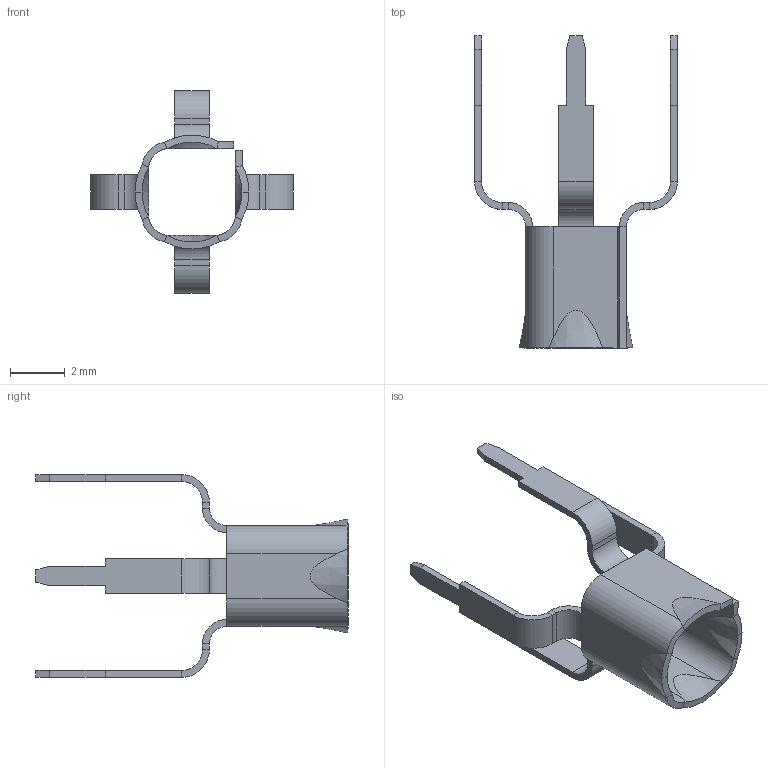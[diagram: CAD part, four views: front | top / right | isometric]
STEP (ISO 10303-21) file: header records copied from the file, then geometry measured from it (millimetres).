
FILE_DESCRIPTION((''),'2;1');
FILE_NAME('PROBE_CONNECTOR_P6137','2010-10-15T',('thnguyen'),(''),'PRO/ENGINEER BY PARAMETRIC TECHNOLOGY CORPORATION, 2008490','PRO/ENGINEER BY PARAMETRIC TECHNOLOGY CORPORATION, 2008490','');
FILE_SCHEMA(('CONFIG_CONTROL_DESIGN'));
Length unit declared in the file: inch
Products named in the file (1): PROBE_CONNECTOR_P6137
Bounding box: 7.42 x 11.43 x 7.42 mm (x, y, z)
Volume: 22.8 mm3; surface area: 206.9 mm2
Topology: 5 solids, 5 shells, 138 faces, 308 edges, 180 vertices
Faces by surface type: plane 97, cylinder 22, bspline 11, cone 8
Entity records: 4314 total; most frequent: CARTESIAN_POINT 1296, ORIENTED_EDGE 616, DIRECTION 588, EDGE_CURVE 308, VECTOR 232, LINE 232, VERTEX_POINT 180, AXIS2_PLACEMENT_3D 178
